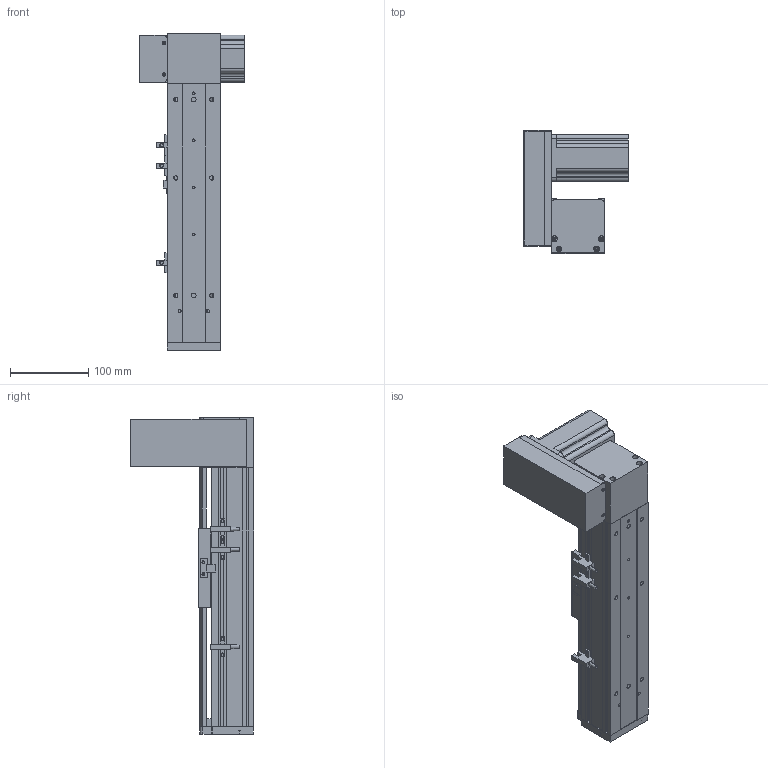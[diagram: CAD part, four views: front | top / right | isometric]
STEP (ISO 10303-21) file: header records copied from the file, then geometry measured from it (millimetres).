
FILE_DESCRIPTION (( 'STEP AP203' ), '1' );
FILE_NAME ('ML68-S150-UR.STEP', '2016-08-05T00:53:05', ( '' ), ( '' ), 'SwSTEP 2.0', 'SolidWorks 2014', '' );
FILE_SCHEMA (( 'CONFIG_CONTROL_DESIGN' ));
Length unit declared in the file: millimetre
Products named in the file (12): ML68滅鳥啣盓傅輸; ML68奻裔^ML68-S150-UR; 60換覜結え; ML68傷啣; 三协电机MH201N2_預設; QS68酘衵殏萇儂啣; ML68-S150-UR; 換覜ん; ML68雄赽釱; 葩璃 ML68菁釱^ML68-S150-UR; ML68-BL傷啣; QS68左右折电机板罩子
Assembly tree (13 placements, depth 2):
  ML68-S150-UR
    葩璃 ML68菁釱^ML68-S150-UR
    ML68奻裔^ML68-S150-UR
    ML68傷啣
    ML68-BL傷啣
    60換覜結え
    換覜ん  x3
    三协电机MH201N2_預設
    ML68雄赽釱
    QS68酘衵殏萇儂啣
    QS68左右折电机板罩子
    ML68滅鳥啣盓傅輸
Bounding box: 133.5 x 157 x 404 mm (x, y, z)
Volume: 1149445.7 mm3; surface area: 371894.9 mm2
Topology: 13 solids, 13 shells, 833 faces, 2276 edges, 1441 vertices
Faces by surface type: cylinder 372, plane 365, cone 96
Entity records: 26008 total; most frequent: CARTESIAN_POINT 4714, DIRECTION 4298, ORIENTED_EDGE 4052, EDGE_CURVE 2026, AXIS2_PLACEMENT_3D 1541, VERTEX_POINT 1329, VECTOR 1216, LINE 1216
